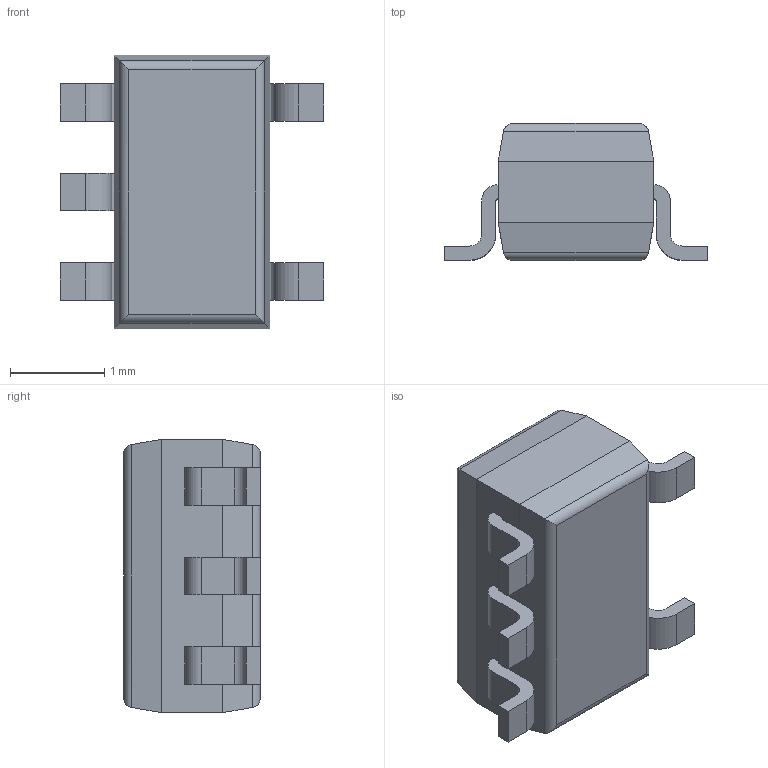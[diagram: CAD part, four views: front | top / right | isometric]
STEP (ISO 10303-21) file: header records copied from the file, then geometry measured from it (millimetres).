
FILE_DESCRIPTION (( 'STEP AP214' ), '1' );
FILE_NAME ( 'SOT23-5P95_280X145L35X40.STP', '2017-05-03T09:37:12', ( '' ), ( '' ), 'FPX Expert 2013', 'PCB Libraries', '' );
FILE_SCHEMA (( 'AUTOMOTIVE_DESIGN' ));
Length unit declared in the file: millimetre
Products named in the file (1): SOT23-5P95_280X145L35X40
Bounding box: 2.8 x 1.45 x 2.9 mm (x, y, z)
Volume: 7 mm3; surface area: 27.5 mm2
Topology: 6 solids, 6 shells, 92 faces, 224 edges, 144 vertices
Faces by surface type: plane 64, cylinder 28
Entity records: 2739 total; most frequent: CARTESIAN_POINT 485, ORIENTED_EDGE 448, DIRECTION 442, EDGE_CURVE 224, VECTOR 176, LINE 176, VERTEX_POINT 144, AXIS2_PLACEMENT_3D 133
